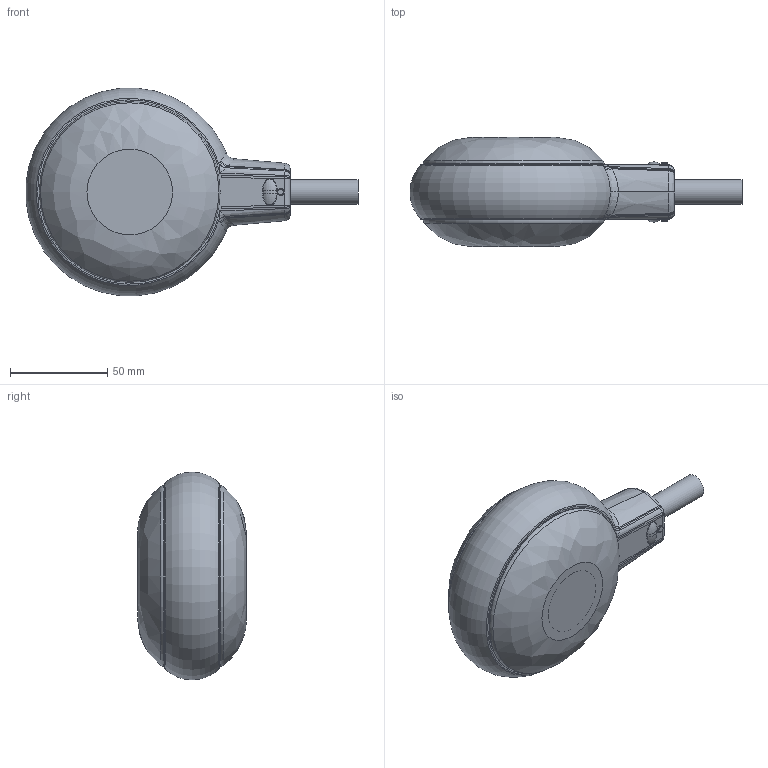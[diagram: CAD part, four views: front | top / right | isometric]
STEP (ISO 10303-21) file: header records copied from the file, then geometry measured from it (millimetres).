
FILE_DESCRIPTION( ( 'Unknown' ), '1' );
FILE_NAME( 'H:/Disegni/Lavori in sospeso/Catalogo/72A1-B1 x catalogo 3d/72A1.stp', 'Unknown', ( 'Unknown' ), ( 'Unknown' ), 'PSStep 15.0.49', 'Unknown', ' ' );
FILE_SCHEMA( ( 'AUTOMOTIVE_DESIGN { 1 0 10303 214 1 1 1 1 }' ) );
Length unit declared in the file: millimetre
Products named in the file (4): 1
Bounding box: 170.6 x 56 x 106.77 mm (x, y, z)
Volume: 403735.7 mm3; surface area: 35290 mm2
Topology: 1 solids, 4 shells, 111 faces, 257 edges, 155 vertices
Faces by surface type: bspline 55, torus 18, revolution 15, cylinder 12, plane 11
Full cylindrical faces by diameter (mm): 3.5 x2, 9 x1, 12.6 x1, 92.9 x2
Entity records: 8024 total; most frequent: CARTESIAN_POINT 4856, ORIENTED_EDGE 471, EDGE_CURVE 237, PRESENTATION_STYLE_ASSIGNMENT 223, COLOUR_RGB 223, B_SPLINE_CURVE_WITH_KNOTS 171, DIRECTION 169, VERTEX_POINT 150
